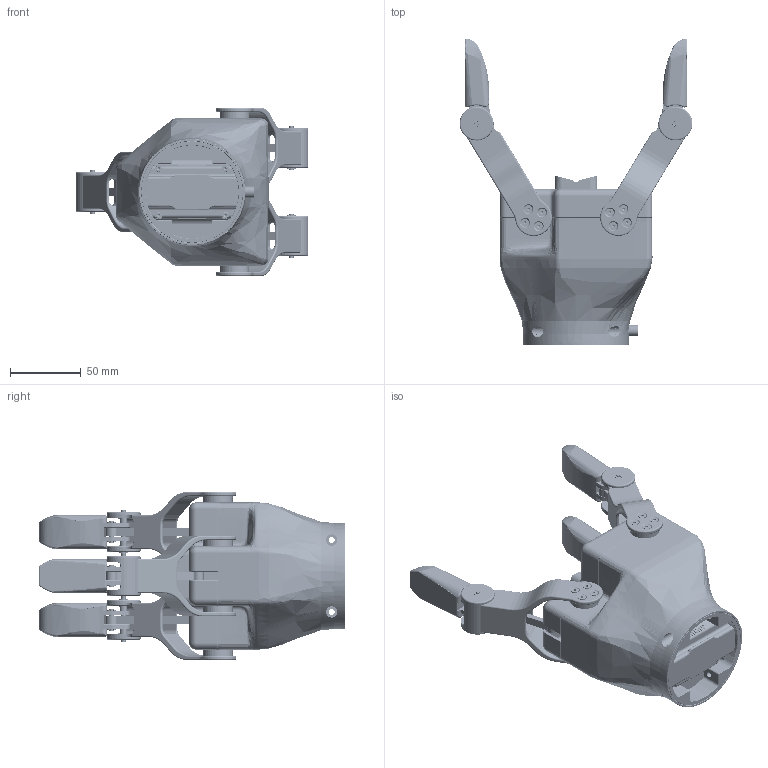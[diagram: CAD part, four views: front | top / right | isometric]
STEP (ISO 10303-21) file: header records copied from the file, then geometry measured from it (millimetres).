
FILE_DESCRIPTION (( 'STEP AP214' ), '1' );
FILE_NAME ('CTTFG60.00-P_三指机械手(仿形指)-20240423-外发.STEP', '2024-04-23T03:21:34', ( '' ), ( '' ), 'SwSTEP 2.0', 'SolidWorks 2016', '' );
FILE_SCHEMA (( 'AUTOMOTIVE_DESIGN' ));
Length unit declared in the file: millimetre
Products named in the file (1): CTTFG60.00-P_三指机械手(仿形指)-20240423-外发
Bounding box: 164.49 x 216.35 x 119 mm (x, y, z)
Volume: 287859.8 mm3; surface area: 222160.3 mm2
Topology: 96 solids, 96 shells, 4734 faces, 11471 edges, 6989 vertices
Faces by surface type: cylinder 1730, plane 1549, cone 666, bspline 539, torus 150, sphere 100
Entity records: 429042 total; most frequent: CARTESIAN_POINT 267633, ORIENTED_EDGE 22686, DIRECTION 22547, EDGE_CURVE 11343, AXIS2_PLACEMENT_3D 8804, VERTEX_POINT 6973, EDGE_LOOP 5256, LINE 4939
